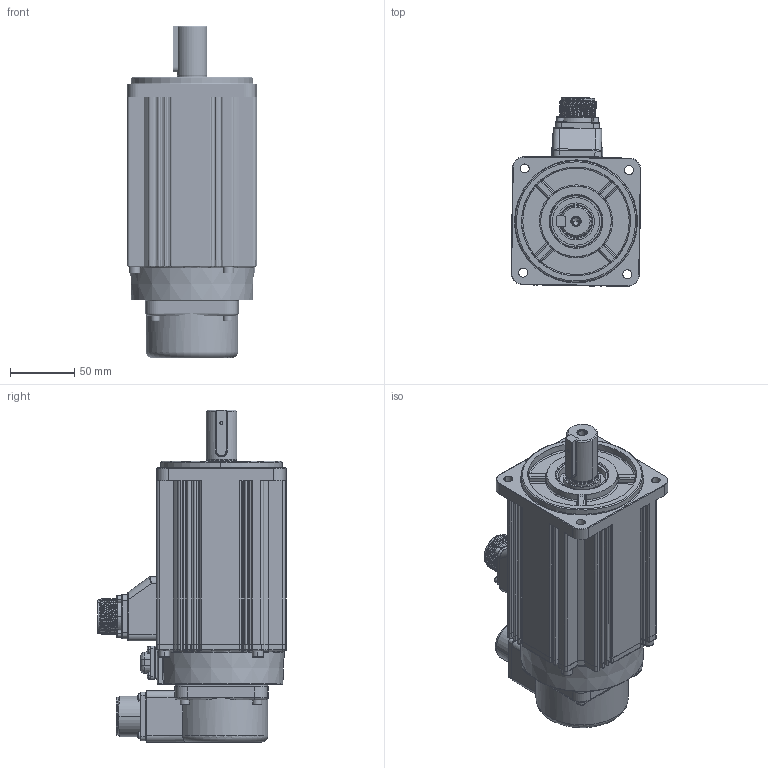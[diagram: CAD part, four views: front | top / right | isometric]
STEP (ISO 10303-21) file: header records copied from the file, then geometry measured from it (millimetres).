
FILE_DESCRIPTION((''),'2;1');
FILE_NAME('IMS20B-10M25C30C-00_ASM','2025-05-20T12:35:13',('admin'),(''),'CREO PARAMETRIC BY PTC INC, 2019080','CREO PARAMETRIC BY PTC INC, 2019080','');
FILE_SCHEMA(('CONFIG_CONTROL_DESIGN'));
Products named in the file (22): 100_JIKE_25C_L80_2_1; 50051-00115_1_1; 18-A6-18FLANGE-CUSTOM-3D_1_1; ISO4762-M3X330-8_8_1_1; 100_DZZJ_25C_ASM_2_ASM_1_ASM; 100_25C_ZHOU_BZ_1_1; 100_HDG_BZ_1_1; 100_ZZZJ_25C_BZ_ASM_1_ASM_1_ASM; 100_FHZ_1_1; CMS3102A20-29PE9-A-3D_1_1; ISO7045-M3X16-4_8_1_1; ISO4762-M4X16-8_8_1_1; 100_FHZ_ASM_1_ASM_1_ASM; BAOZHA_MIFENGDIAN_1_1; BAOZHA_CHUXIANHE_1_1; M3X8-0001_1_1; ISO4762-M5X16-8_8_1_1; 13000_1_1; IMS20B-10M25C30C-BZ_ASM_3_ASM_1_ASM; IMS20B-10M25C30C-00_ASM_1_ASM; C; IMS20B-10M25C30C-00_ASM
Assembly tree (36 placements, depth 5):
  IMS20B-10M25C30C-00_ASM
    IMS20B-10M25C30C-00_ASM_1_ASM
      IMS20B-10M25C30C-BZ_ASM_3_ASM_1_ASM
        100_DZZJ_25C_ASM_2_ASM_1_ASM
          100_JIKE_25C_L80_2_1
          50051-00115_1_1
          18-A6-18FLANGE-CUSTOM-3D_1_1
          ISO4762-M3X330-8_8_1_1  x4
        100_ZZZJ_25C_BZ_ASM_1_ASM_1_ASM
          100_25C_ZHOU_BZ_1_1
          100_HDG_BZ_1_1
        100_FHZ_ASM_1_ASM_1_ASM
          100_FHZ_1_1
          CMS3102A20-29PE9-A-3D_1_1
          ISO7045-M3X16-4_8_1_1  x4
          ISO4762-M4X16-8_8_1_1  x4
        BAOZHA_MIFENGDIAN_1_1
        BAOZHA_CHUXIANHE_1_1
        M3X8-0001_1_1  x4
        ISO4762-M5X16-8_8_1_1  x4
        13000_1_1
    C
Bounding box: 101.25 x 147.41 x 259 mm (x, y, z)
Volume: 1775323.6 mm3; surface area: 219254.8 mm2
Topology: 31 solids, 76 shells, 4682 faces, 12735 edges, 8330 vertices
Faces by surface type: plane 2144, cylinder 1133, extrusion 812, torus 223, cone 156, bspline 135, sphere 79
Entity records: 153540 total; most frequent: CARTESIAN_POINT 48078, ORIENTED_EDGE 22938, DIRECTION 19443, EDGE_CURVE 11529, VERTEX_POINT 7613, VECTOR 7521, LINE 6709, AXIS2_PLACEMENT_3D 5961
